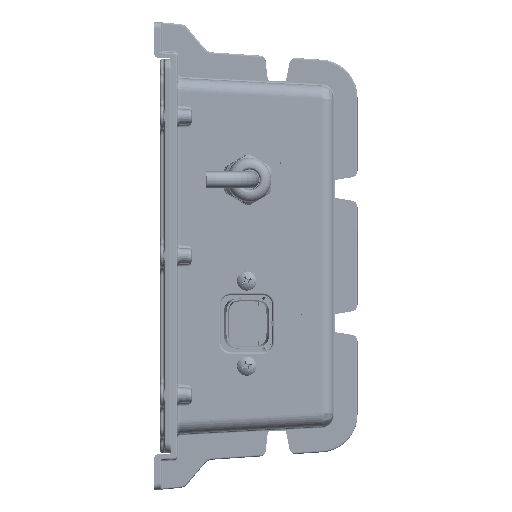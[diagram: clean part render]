
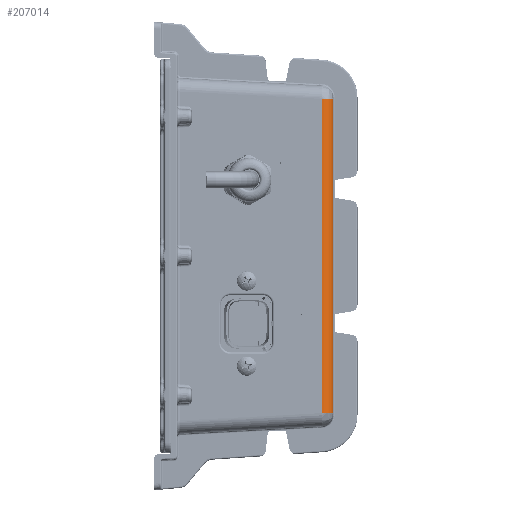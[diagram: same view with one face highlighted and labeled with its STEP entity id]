
A CAD part, left-side view. The second image highlights one B-rep face of the part: STEP entity #207014.
In plain terms, the highlighted cylindrical face has radius 5.842 mm (diameter 11.684 mm), a partial arc.
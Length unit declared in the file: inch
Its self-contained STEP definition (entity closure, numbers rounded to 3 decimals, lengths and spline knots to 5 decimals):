
#22607=FACE_OUTER_BOUND('',#34343,.T.);
#34343=EDGE_LOOP('',(#180168,#180169,#180170,#180171));
#39773=CIRCLE('',#221730,0.23);
#39774=CIRCLE('',#221734,0.23);
#55579=LINE('',#367205,#70943);
#59561=LINE('',#433979,#74925);
#70943=VECTOR('',#249365,0.3937);
#74925=VECTOR('',#268261,0.3937);
#86041=VERTEX_POINT('',#367202);
#86042=VERTEX_POINT('',#367204);
#92567=VERTEX_POINT('',#433973);
#92568=VERTEX_POINT('',#433977);
#109329=EDGE_CURVE('',#86042,#86041,#55579,.T.);
#119585=EDGE_CURVE('',#86041,#92567,#39773,.T.);
#119587=EDGE_CURVE('',#92567,#92568,#59561,.T.);
#119589=EDGE_CURVE('',#92568,#86042,#39774,.T.);
#180168=ORIENTED_EDGE('',*,*,#119589,.T.);
#180169=ORIENTED_EDGE('',*,*,#109329,.T.);
#180170=ORIENTED_EDGE('',*,*,#119585,.T.);
#180171=ORIENTED_EDGE('',*,*,#119587,.T.);
#184777=CYLINDRICAL_SURFACE('',#224938,0.23);
#207014=ADVANCED_FACE('',(#22607),#184777,.T.);
#221730=AXIS2_PLACEMENT_3D('',#433975,#268255,#268256);
#221734=AXIS2_PLACEMENT_3D('',#434017,#268264,#268265);
#224938=AXIS2_PLACEMENT_3D('',#456569,#275800,#275801);
#249365=DIRECTION('',(0.,0.,-1.));
#268255=DIRECTION('center_axis',(0.,0.,1.));
#268256=DIRECTION('ref_axis',(-0.999,-0.052,0.));
#268261=DIRECTION('',(0.,0.,1.));
#268264=DIRECTION('center_axis',(0.,0.,-1.));
#268265=DIRECTION('ref_axis',(0.,-1.,0.));
#275800=DIRECTION('center_axis',(0.,0.,-1.));
#275801=DIRECTION('ref_axis',(-0.688,-0.725,0.));
#367202=CARTESIAN_POINT('',(-4.92398,0.07296,-3.04434));
#367204=CARTESIAN_POINT('',(-4.92398,0.07296,3.04434));
#367205=CARTESIAN_POINT('',(-4.92398,0.07296,1.5925));
#433973=CARTESIAN_POINT('',(-4.6943,-0.145,-3.04434));
#433975=CARTESIAN_POINT('Origin',(-4.6943,0.085,-3.04434));
#433977=CARTESIAN_POINT('',(-4.6943,-0.145,3.04434));
#433979=CARTESIAN_POINT('',(-4.6943,-0.145,1.5925));
#434017=CARTESIAN_POINT('Origin',(-4.6943,0.085,3.04434));
#456569=CARTESIAN_POINT('Origin',(-4.6943,0.085,1.5925));
